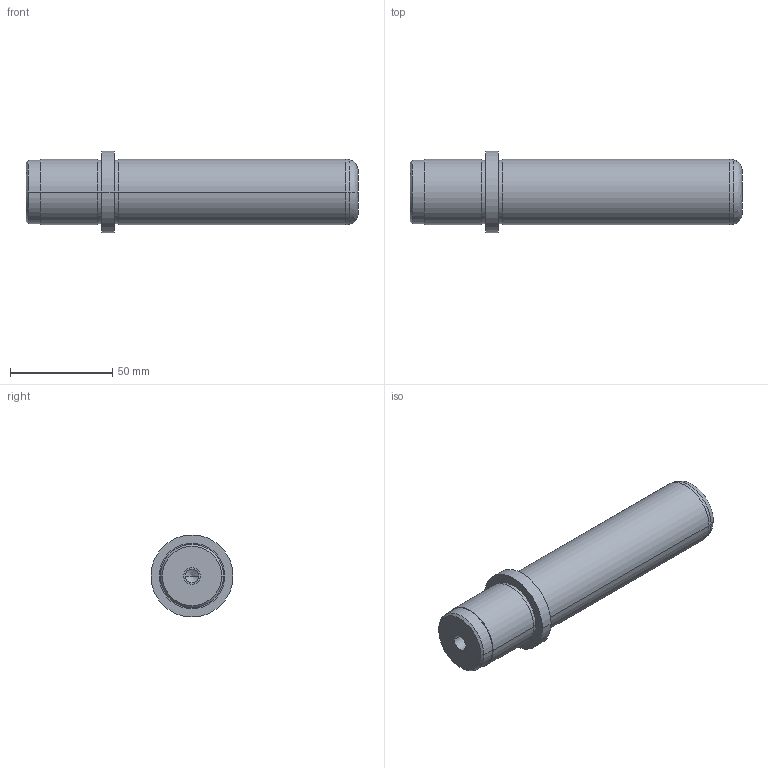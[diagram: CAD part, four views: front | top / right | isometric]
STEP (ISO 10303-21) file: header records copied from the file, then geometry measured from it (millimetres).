
FILE_DESCRIPTION( ( 'STEP AP203' ), '1' );
FILE_NAME( 'D:/Delta 3 D/D00/D00 - 32x125x37.step', '2003-01-02T07:02:57', ( ' ' ), ( ' ' ), 'XStep 1.0', ' ', ' ' );
FILE_SCHEMA( ( 'CONFIG_CONTROL_DESIGN' ) );
Length unit declared in the file: metre
Products named in the file (1): 1
Bounding box: 162 x 40 x 40 mm (x, y, z)
Volume: 129595.6 mm3; surface area: 19984.5 mm2
Topology: 1 solids, 1 shells, 39 faces, 78 edges, 48 vertices
Faces by surface type: revolution 28, bspline 11
Entity records: 1137 total; most frequent: CARTESIAN_POINT 277, DIRECTION 154, ORIENTED_EDGE 152, EDGE_CURVE 76, AXIS2_PLACEMENT_3D 49, EDGE_LOOP 48, VERTEX_POINT 48, CIRCLE 48
